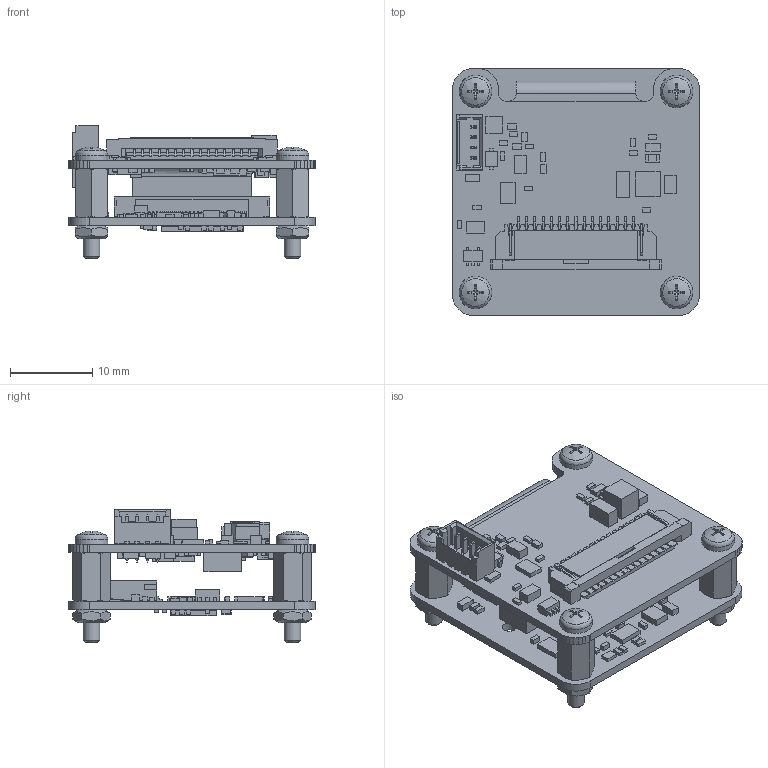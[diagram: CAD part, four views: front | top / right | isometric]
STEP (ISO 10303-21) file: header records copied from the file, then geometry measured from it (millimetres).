
FILE_DESCRIPTION(/* description */ ('289-20-1-05-00'),/* implementation_level */ '2;1');
FILE_NAME(/* name */ 'D:\HiDrive\1_Konstruktion\1_KUNDEN\TIS\289-20_MIPI-Dokumentation\KundenStepModell (KSM)\289-20-1_MIPI-AX-Modul (Kombi_CSI2-Sensorb)\289-20-1-05-00_AX-R120_AR0234-R100.stp',/* time_stamp */ '2020-12-17T08:31:04+01:00',/* author */ ('Westermann'),/* organization */ ('TIS, Bremen-Germany'),/* preprocessor_version */ 'ST-DEVELOPER v16.5',/* originating_system */ 'Autodesk Inventor 2017',/* authorisation */ '');
FILE_SCHEMA (('AUTOMOTIVE_DESIGN { 1 0 10303 214 3 1 1 }'));
Products named in the file (6): 289-20-1-05-00_AX-R120_AR0234-R100; ISO 4032 - M2; ISO 7045 - M2 x 4 - 4.8 - H; AR0234_MIPI_HB_R1-00; TISMIPI_JetsonNano_Adapter_folded_R1-20; Distanzbolzen-IA-M2x6_0100018_SIBALCO
Assembly tree (14 placements, depth 2):
  289-20-1-05-00_AX-R120_AR0234-R100
    ISO 4032 - M2  x4
    ISO 7045 - M2 x 4 - 4.8 - H  x4
    AR0234_MIPI_HB_R1-00
    TISMIPI_JetsonNano_Adapter_folded_R1-20
    Distanzbolzen-IA-M2x6_0100018_SIBALCO  x4
Bounding box: 30.1 x 30.1 x 16.21 mm (x, y, z)
Volume: 2978.7 mm3; surface area: 7313.3 mm2
Topology: 18 solids, 18 shells, 3560 faces, 9887 edges, 6409 vertices
Faces by surface type: plane 3165, cylinder 239, cone 124, torus 28, sphere 4
Full cylindrical faces by diameter (mm): 0.5 x5, 1.4 x4, 1.567 x8, 1.7 x2, 1.783 x4, 2 x8, 2.1 x8
Entity records: 109344 total; most frequent: CARTESIAN_POINT 18939, ORIENTED_EDGE 18710, DIRECTION 16537, EDGE_CURVE 9351, LINE 8797, VECTOR 8797, VERTEX_POINT 6100, AXIS2_PLACEMENT_3D 3870
